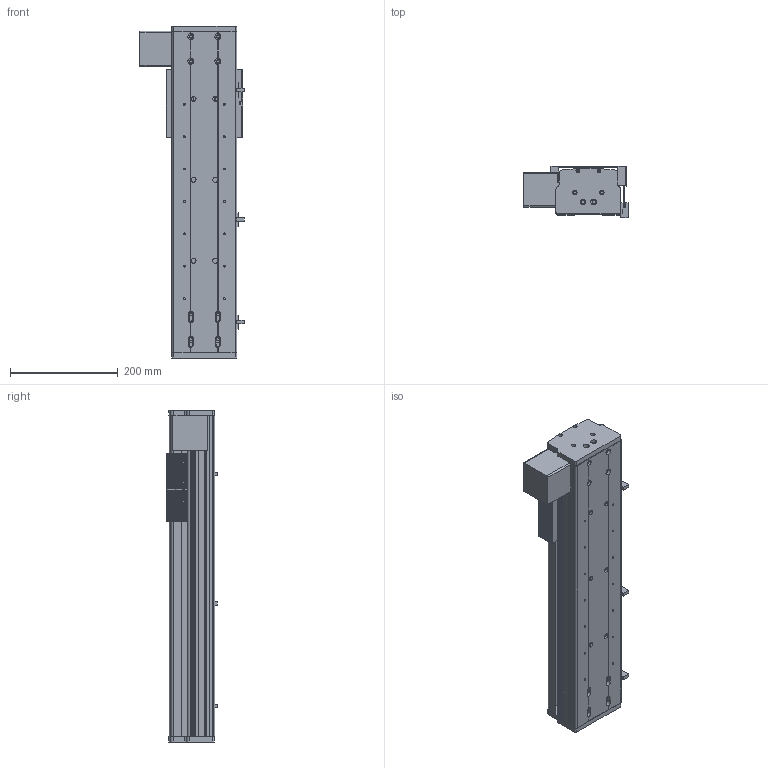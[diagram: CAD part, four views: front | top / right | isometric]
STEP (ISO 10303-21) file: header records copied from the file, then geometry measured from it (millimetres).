
FILE_DESCRIPTION (( 'STEP AP214' ), '1' );
FILE_NAME ('CF120B-D-300-FWL.STEP', '2020-01-15T07:23:22', ( '微软用户' ), ( '微软中国' ), 'SwSTEP 2.0', 'SolidWorks 2016', '' );
FILE_SCHEMA (( 'AUTOMOTIVE_DESIGN' ));
Length unit declared in the file: millimetre
Products named in the file (14): CF120B耜啣; CF120B裔啣-300; CF120B賑雄啣; CF120-B賑雄輸; EGR15絳寢-300; EGH-15-CABZnew; CF120B臏倰第-300; CF120B-D-300-FWL; 嫖萇羲壽; 75-86-95癹弇羲壽覜茼え; 6060-3232源臏奪-植雄釱; 6060-3232源臏奪-萇儂釱; 6060-3232源臏奪-翋雄釱; CF120B耜啣萇儂傷
Assembly tree (19 placements, depth 2):
  CF120B-D-300-FWL
    CF120B臏倰第-300
    EGH-15-CABZnew  x4
    EGR15絳寢-300  x2
    CF120-B賑雄輸
    CF120B賑雄啣
    CF120B裔啣-300
    CF120B耜啣
    CF120B耜啣萇儂傷
    6060-3232源臏奪-翋雄釱
    6060-3232源臏奪-萇儂釱
    6060-3232源臏奪-植雄釱
    75-86-95癹弇羲壽覜茼え
    嫖萇羲壽  x3
Bounding box: 193.1 x 93.85 x 615 mm (x, y, z)
Volume: 3192514.6 mm3; surface area: 1037986.2 mm2
Topology: 15 solids, 67 shells, 7275 faces, 27588 edges, 18992 vertices
Faces by surface type: plane 3598, bspline 2348, cylinder 977, cone 128, torus 128, sphere 96
Entity records: 130531 total; most frequent: CARTESIAN_POINT 41959, ORIENTED_EDGE 15402, DIRECTION 12158, EDGE_CURVE 8825, VERTEX_POINT 6041, VECTOR 5226, LINE 5226, AXIS2_PLACEMENT_3D 3466
